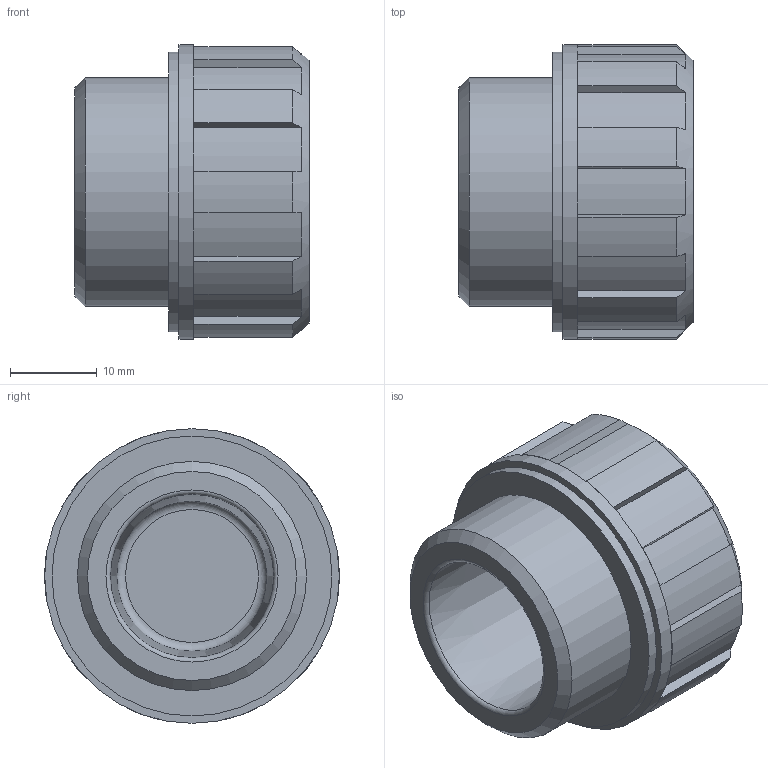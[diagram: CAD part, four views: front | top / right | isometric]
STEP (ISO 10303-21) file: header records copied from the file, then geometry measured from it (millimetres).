
FILE_DESCRIPTION( ( 'STEP AP203' ), '1' );
FILE_NAME( 'C:/Temp/Ganter_Step_05_03_2020/data/3_5/gn548_1/Plug GN 548.1-G3_4-A.stp', '2020-03-12T13:35:43', ( 'License CC BY-ND 4.0' ), ( 'CADENAS' ), ' ', 'PARTsolutions', ' ' );
FILE_SCHEMA( ( 'CONFIG_CONTROL_DESIGN' ) );
Length unit declared in the file: millimetre
Products named in the file (1): _Plug GN 548.1-G3/4-A
Bounding box: 27 x 34 x 34 mm (x, y, z)
Volume: 13743.6 mm3; surface area: 5883.6 mm2
Topology: 1 solids, 1 shells, 56 faces, 145 edges, 96 vertices
Faces by surface type: plane 27, cylinder 24, cone 3, torus 2
Full cylindrical faces by diameter (mm): 26.441 x1, 30.909 x1, 32.3 x1, 34 x1
Entity records: 1728 total; most frequent: CARTESIAN_POINT 345, DIRECTION 282, ORIENTED_EDGE 268, EDGE_CURVE 134, AXIS2_PLACEMENT_3D 111, VERTEX_POINT 94, EDGE_LOOP 70, FACE_OUTER_BOUND 62
